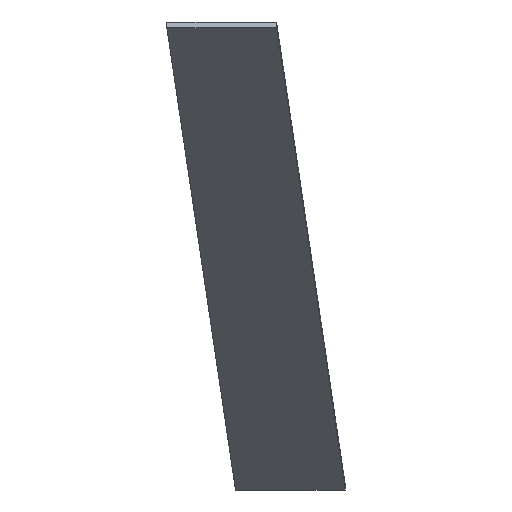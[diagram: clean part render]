
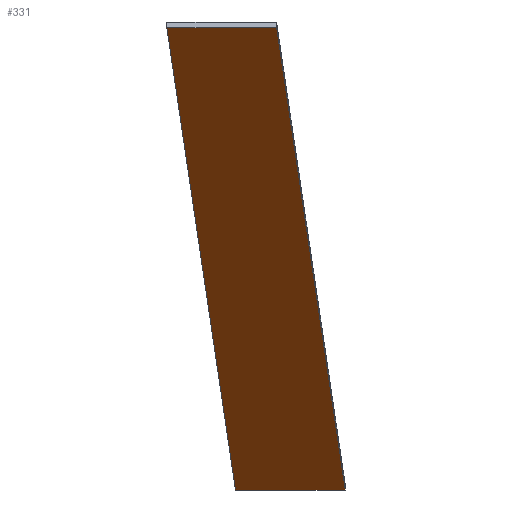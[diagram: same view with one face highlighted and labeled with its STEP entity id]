
A CAD part, left-side view. The second image highlights one B-rep face of the part: STEP entity #331.
In plain terms, the highlighted planar face has unit normal (-0.492, 0, -0.871).
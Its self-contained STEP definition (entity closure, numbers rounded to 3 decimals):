
#22 = VERTEX_POINT('',#23);
#23 = CARTESIAN_POINT('',(-380.,204.,277.));
#32 = PLANE('',#33);
#33 = AXIS2_PLACEMENT_3D('',#34,#35,#36);
#34 = CARTESIAN_POINT('',(-380.,204.,277.));
#35 = DIRECTION('',(0.063,0.997,-0.036
    ));
#36 = DIRECTION('',(0.868,-0.073,-0.491)
  );
#44 = PLANE('',#45);
#45 = AXIS2_PLACEMENT_3D('',#46,#47,#48);
#46 = CARTESIAN_POINT('',(-380.,252.,277.));
#47 = DIRECTION('',(0.871,0.,-0.492));
#48 = DIRECTION('',(0.,-1.,0.));
#85 = VERTEX_POINT('',#86);
#86 = CARTESIAN_POINT('',(-22.5,174.,75.));
#100 = PLANE('',#101);
#101 = AXIS2_PLACEMENT_3D('',#102,#103,#104);
#102 = CARTESIAN_POINT('',(-22.5,174.,75.));
#103 = DIRECTION('',(-0.871,0.,0.492));
#104 = DIRECTION('',(0.,1.,0.));
#112 = EDGE_CURVE('',#22,#85,#113,.T.);
#113 = SURFACE_CURVE('',#114,(#118,#125),.PCURVE_S1.);
#114 = LINE('',#115,#116);
#115 = CARTESIAN_POINT('',(-380.,204.,277.));
#116 = VECTOR('',#117,1.);
#117 = DIRECTION('',(0.868,-0.073,-0.491)
  );
#118 = PCURVE('',#32,#119);
#119 = DEFINITIONAL_REPRESENTATION('',(#120),#124);
#120 = LINE('',#121,#122);
#121 = CARTESIAN_POINT('',(0.,0.));
#122 = VECTOR('',#123,1.);
#123 = DIRECTION('',(1.,0.));
#124 = ( GEOMETRIC_REPRESENTATION_CONTEXT(2) 
PARAMETRIC_REPRESENTATION_CONTEXT() REPRESENTATION_CONTEXT('2D SPACE',''
  ) );
#125 = PCURVE('',#126,#131);
#126 = PLANE('',#127);
#127 = AXIS2_PLACEMENT_3D('',#128,#129,#130);
#128 = CARTESIAN_POINT('',(-201.25,213.,176.));
#129 = DIRECTION('',(0.492,0.,0.871));
#130 = DIRECTION('',(0.871,0.,-0.492));
#131 = DEFINITIONAL_REPRESENTATION('',(#132),#136);
#132 = LINE('',#133,#134);
#133 = CARTESIAN_POINT('',(-205.311,-9.));
#134 = VECTOR('',#135,1.);
#135 = DIRECTION('',(0.997,-0.073));
#136 = ( GEOMETRIC_REPRESENTATION_CONTEXT(2) 
PARAMETRIC_REPRESENTATION_CONTEXT() REPRESENTATION_CONTEXT('2D SPACE',''
  ) );
#166 = VERTEX_POINT('',#167);
#167 = CARTESIAN_POINT('',(-22.5,222.,75.));
#181 = PLANE('',#182);
#182 = AXIS2_PLACEMENT_3D('',#183,#184,#185);
#183 = CARTESIAN_POINT('',(-22.5,222.,75.));
#184 = DIRECTION('',(-0.063,-0.997,
    0.036));
#185 = DIRECTION('',(-0.868,0.073,0.491)
  );
#193 = EDGE_CURVE('',#85,#166,#194,.T.);
#194 = SURFACE_CURVE('',#195,(#199,#206),.PCURVE_S1.);
#195 = LINE('',#196,#197);
#196 = CARTESIAN_POINT('',(-22.5,174.,75.));
#197 = VECTOR('',#198,1.);
#198 = DIRECTION('',(0.,1.,0.));
#199 = PCURVE('',#100,#200);
#200 = DEFINITIONAL_REPRESENTATION('',(#201),#205);
#201 = LINE('',#202,#203);
#202 = CARTESIAN_POINT('',(0.,0.));
#203 = VECTOR('',#204,1.);
#204 = DIRECTION('',(1.,0.));
#205 = ( GEOMETRIC_REPRESENTATION_CONTEXT(2) 
PARAMETRIC_REPRESENTATION_CONTEXT() REPRESENTATION_CONTEXT('2D SPACE',''
  ) );
#206 = PCURVE('',#126,#207);
#207 = DEFINITIONAL_REPRESENTATION('',(#208),#212);
#208 = LINE('',#209,#210);
#209 = CARTESIAN_POINT('',(205.311,-39.));
#210 = VECTOR('',#211,1.);
#211 = DIRECTION('',(0.,1.));
#212 = ( GEOMETRIC_REPRESENTATION_CONTEXT(2) 
PARAMETRIC_REPRESENTATION_CONTEXT() REPRESENTATION_CONTEXT('2D SPACE',''
  ) );
#242 = VERTEX_POINT('',#243);
#243 = CARTESIAN_POINT('',(-380.,252.,277.));
#264 = EDGE_CURVE('',#166,#242,#265,.T.);
#265 = SURFACE_CURVE('',#266,(#270,#277),.PCURVE_S1.);
#266 = LINE('',#267,#268);
#267 = CARTESIAN_POINT('',(-22.5,222.,75.));
#268 = VECTOR('',#269,1.);
#269 = DIRECTION('',(-0.868,0.073,0.491)
  );
#270 = PCURVE('',#181,#271);
#271 = DEFINITIONAL_REPRESENTATION('',(#272),#276);
#272 = LINE('',#273,#274);
#273 = CARTESIAN_POINT('',(0.,0.));
#274 = VECTOR('',#275,1.);
#275 = DIRECTION('',(1.,0.));
#276 = ( GEOMETRIC_REPRESENTATION_CONTEXT(2) 
PARAMETRIC_REPRESENTATION_CONTEXT() REPRESENTATION_CONTEXT('2D SPACE',''
  ) );
#277 = PCURVE('',#126,#278);
#278 = DEFINITIONAL_REPRESENTATION('',(#279),#283);
#279 = LINE('',#280,#281);
#280 = CARTESIAN_POINT('',(205.311,9.));
#281 = VECTOR('',#282,1.);
#282 = DIRECTION('',(-0.997,0.073));
#283 = ( GEOMETRIC_REPRESENTATION_CONTEXT(2) 
PARAMETRIC_REPRESENTATION_CONTEXT() REPRESENTATION_CONTEXT('2D SPACE',''
  ) );
#311 = EDGE_CURVE('',#242,#22,#312,.T.);
#312 = SURFACE_CURVE('',#313,(#317,#324),.PCURVE_S1.);
#313 = LINE('',#314,#315);
#314 = CARTESIAN_POINT('',(-380.,252.,277.));
#315 = VECTOR('',#316,1.);
#316 = DIRECTION('',(0.,-1.,0.));
#317 = PCURVE('',#44,#318);
#318 = DEFINITIONAL_REPRESENTATION('',(#319),#323);
#319 = LINE('',#320,#321);
#320 = CARTESIAN_POINT('',(0.,-0.));
#321 = VECTOR('',#322,1.);
#322 = DIRECTION('',(1.,0.));
#323 = ( GEOMETRIC_REPRESENTATION_CONTEXT(2) 
PARAMETRIC_REPRESENTATION_CONTEXT() REPRESENTATION_CONTEXT('2D SPACE',''
  ) );
#324 = PCURVE('',#126,#325);
#325 = DEFINITIONAL_REPRESENTATION('',(#326),#330);
#326 = LINE('',#327,#328);
#327 = CARTESIAN_POINT('',(-205.311,39.));
#328 = VECTOR('',#329,1.);
#329 = DIRECTION('',(0.,-1.));
#330 = ( GEOMETRIC_REPRESENTATION_CONTEXT(2) 
PARAMETRIC_REPRESENTATION_CONTEXT() REPRESENTATION_CONTEXT('2D SPACE',''
  ) );
#331 = ADVANCED_FACE('',(#332),#126,.F.);
#332 = FACE_BOUND('',#333,.F.);
#333 = EDGE_LOOP('',(#334,#335,#336,#337));
#334 = ORIENTED_EDGE('',*,*,#112,.T.);
#335 = ORIENTED_EDGE('',*,*,#193,.T.);
#336 = ORIENTED_EDGE('',*,*,#264,.T.);
#337 = ORIENTED_EDGE('',*,*,#311,.T.);
